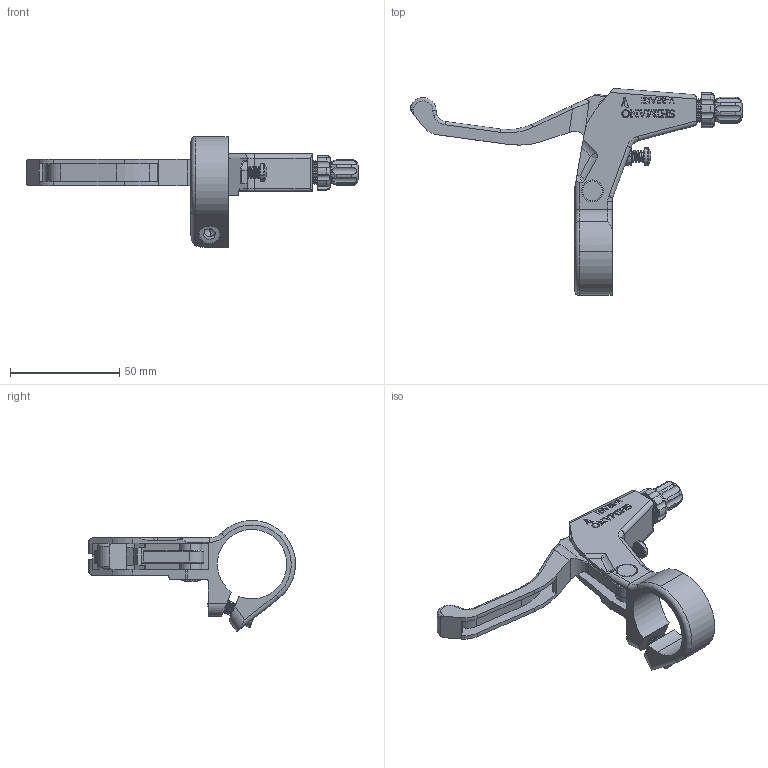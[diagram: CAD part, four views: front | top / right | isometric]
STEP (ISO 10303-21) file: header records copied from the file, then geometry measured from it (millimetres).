
FILE_DESCRIPTION (( 'STEP AP214' ), '1' );
FILE_NAME ('Ensamblaje palanca freno izquierda.STEP', '2020-06-25T02:21:04', ( '' ), ( '' ), 'SwSTEP 2.0', 'SolidWorks 2017', '' );
FILE_SCHEMA (( 'AUTOMOTIVE_DESIGN' ));
Length unit declared in the file: millimetre
Products named in the file (9): Ensamblaje palanca freno izquierda; Resorte freno; socket head cap screw_iso_ISO 4762 M6 x 16 --- 16S; pan head cross recess screw_iso_ISO 7045 - M4 x 10 - Z --- 10S; Conector interno freno; Tuerca freno; Tornillo freno; Palanca freno; Conector freno izquierdo
Assembly tree (8 placements, depth 2):
  Ensamblaje palanca freno izquierda
    Conector freno izquierdo
    Palanca freno
    Tornillo freno
    Tuerca freno
    Conector interno freno
    pan head cross recess screw_iso_ISO 7045 - M4 x 10 - Z --- 10S
    socket head cap screw_iso_ISO 4762 M6 x 16 --- 16S
    Resorte freno
Bounding box: 152.1 x 94.81 x 50.82 mm (x, y, z)
Volume: 33335.7 mm3; surface area: 28392.6 mm2
Topology: 9 solids, 9 shells, 966 faces, 2631 edges, 1703 vertices
Faces by surface type: plane 414, cylinder 213, bspline 158, cone 134, torus 45, sphere 2
Entity records: 65233 total; most frequent: CARTESIAN_POINT 37492, ORIENTED_EDGE 5248, DIRECTION 4407, EDGE_CURVE 2624, VERTEX_POINT 1703, LINE 1471, VECTOR 1471, AXIS2_PLACEMENT_3D 1468
